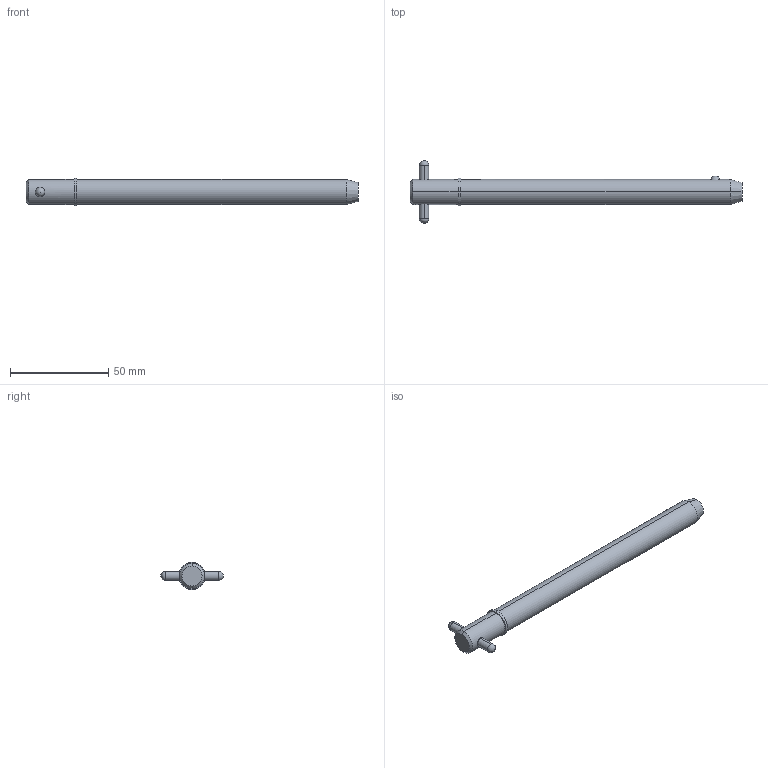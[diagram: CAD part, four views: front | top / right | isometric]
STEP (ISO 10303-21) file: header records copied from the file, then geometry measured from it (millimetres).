
FILE_DESCRIPTION (( 'STEP AP203' ), '1' );
FILE_NAME ('33018.W5050.step', '2024-11-19T17:15:32', ( '' ), ( '' ), 'SwSTEP 2.0', 'SolidWorks 2019', '' );
FILE_SCHEMA (( 'CONFIG_CONTROL_DESIGN' ));
Length unit declared in the file: millimetre
Products named in the file (3): Part2_33018.W5050; 33018.W5050; Part1_33018.W5050
Assembly tree (2 placements, depth 2):
  33018.W5050
    Part1_33018.W5050
    Part2_33018.W5050
Bounding box: 168.58 x 31.75 x 13.97 mm (x, y, z)
Volume: 21521.9 mm3; surface area: 7562.3 mm2
Topology: 2 solids, 2 shells, 22 faces, 47 edges, 30 vertices
Faces by surface type: cylinder 10, sphere 4, cone 4, plane 4
Entity records: 1043 total; most frequent: CARTESIAN_POINT 286, DIRECTION 110, ORIENTED_EDGE 82, AXIS2_PLACEMENT_3D 48, EDGE_CURVE 41, EDGE_LOOP 27, PERSON_AND_ORGANIZATION 26, VERTEX_POINT 26
